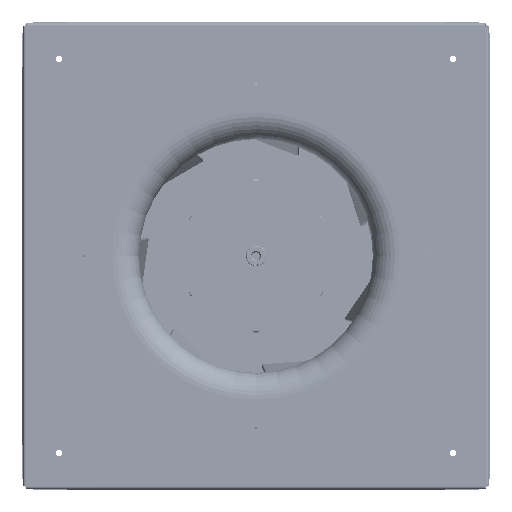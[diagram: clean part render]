
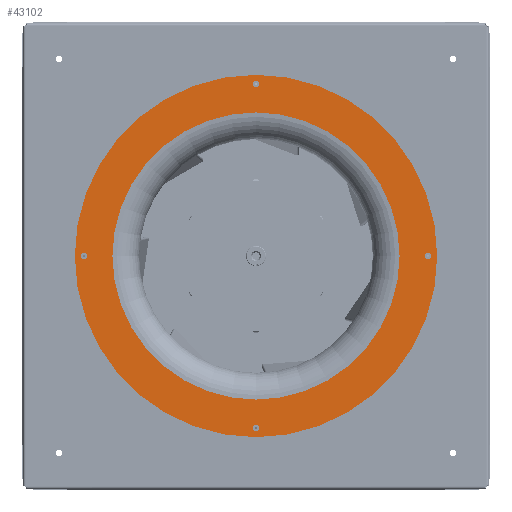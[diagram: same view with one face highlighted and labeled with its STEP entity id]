
A CAD part, front view. The second image highlights one B-rep face of the part: STEP entity #43102.
In plain terms, the highlighted planar face has unit normal (0, -1, 0) as drawn and (0, 0, 1) by its records, which use the part's own axes.
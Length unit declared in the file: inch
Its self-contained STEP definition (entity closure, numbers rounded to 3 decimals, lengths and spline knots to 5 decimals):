
#1715 = CIRCLE ( 'NONE', #76024, 0.16732 ) ;
#2706 = CARTESIAN_POINT ( 'NONE',  ( -0.16732, -9.6063, 0. ) ) ;
#5581 = CARTESIAN_POINT ( 'NONE',  ( 0., 9.6063, 0. ) ) ;
#12181 = ORIENTED_EDGE ( 'NONE', *, *, #39058, .T. ) ;
#12630 = DIRECTION ( 'NONE',  ( 1., 0., 0. ) ) ;
#13577 = ORIENTED_EDGE ( 'NONE', *, *, #205903, .F. ) ;
#16025 = EDGE_CURVE ( 'NONE', #217130, #172146, #111069, .T. ) ;
#16224 = DIRECTION ( 'NONE',  ( 0., 0., 1. ) ) ;
#17736 = VERTEX_POINT ( 'NONE', #35707 ) ;
#17962 = CARTESIAN_POINT ( 'NONE',  ( 0.16732, -9.6063, 0. ) ) ;
#21403 = EDGE_CURVE ( 'NONE', #17736, #46559, #57451, .T. ) ;
#22189 = CIRCLE ( 'NONE', #197042, 10.11811 ) ;
#22967 = AXIS2_PLACEMENT_3D ( 'NONE', #102961, #27120, #208399 ) ;
#27120 = DIRECTION ( 'NONE',  ( 0., 0., 1. ) ) ;
#28517 = VERTEX_POINT ( 'NONE', #2706 ) ;
#29367 = DIRECTION ( 'NONE',  ( 1., 0., 0. ) ) ;
#29459 = ORIENTED_EDGE ( 'NONE', *, *, #111839, .F. ) ;
#32095 = CARTESIAN_POINT ( 'NONE',  ( -10.11811, 0., 0. ) ) ;
#35707 = CARTESIAN_POINT ( 'NONE',  ( -9.6063, -0.16732, 0. ) ) ;
#36095 = CIRCLE ( 'NONE', #22967, 0.16732 ) ;
#36842 = ORIENTED_EDGE ( 'NONE', *, *, #66265, .F. ) ;
#37438 = CARTESIAN_POINT ( 'NONE',  ( 9.6063, 0., 0. ) ) ;
#39058 = EDGE_CURVE ( 'NONE', #230569, #83173, #22189, .T. ) ;
#39083 = DIRECTION ( 'NONE',  ( 0., -1., 0. ) ) ;
#43102 = ADVANCED_FACE ( 'NONE', ( #107478, #206217, #248653, #167859, #145890, #147234 ), #43109, .F. ) ;
#43109 = PLANE ( 'NONE',  #196489 ) ;
#46048 = AXIS2_PLACEMENT_3D ( 'NONE', #160157, #16224, #243678 ) ;
#46559 = VERTEX_POINT ( 'NONE', #62795 ) ;
#51811 = CARTESIAN_POINT ( 'NONE',  ( -9.6063, 0., 0. ) ) ;
#51901 = EDGE_LOOP ( 'NONE', ( #210673, #187003 ) ) ;
#54752 = EDGE_CURVE ( 'NONE', #83173, #230569, #55833, .T. ) ;
#55833 = CIRCLE ( 'NONE', #91489, 10.11811 ) ;
#56934 = AXIS2_PLACEMENT_3D ( 'NONE', #168759, #64549, #231697 ) ;
#57451 = CIRCLE ( 'NONE', #245569, 0.16732 ) ;
#57648 = ORIENTED_EDGE ( 'NONE', *, *, #256833, .F. ) ;
#62795 = CARTESIAN_POINT ( 'NONE',  ( -9.6063, 0.16732, 0. ) ) ;
#63033 = CARTESIAN_POINT ( 'NONE',  ( 0., 0., 0. ) ) ;
#64367 = DIRECTION ( 'NONE',  ( 0., 0., 1. ) ) ;
#64549 = DIRECTION ( 'NONE',  ( 0., 0., 1. ) ) ;
#66265 = EDGE_CURVE ( 'NONE', #186504, #206328, #36095, .T. ) ;
#68108 = EDGE_CURVE ( 'NONE', #28517, #117636, #152283, .T. ) ;
#70513 = DIRECTION ( 'NONE',  ( 0., 0., 1. ) ) ;
#71590 = ORIENTED_EDGE ( 'NONE', *, *, #68108, .F. ) ;
#73739 = DIRECTION ( 'NONE',  ( 0., 0., 1. ) ) ;
#74544 = CARTESIAN_POINT ( 'NONE',  ( 0., 9.6063, 0. ) ) ;
#76024 = AXIS2_PLACEMENT_3D ( 'NONE', #5581, #157231, #111054 ) ;
#83145 = CIRCLE ( 'NONE', #56934, 8.01772 ) ;
#83173 = VERTEX_POINT ( 'NONE', #194919 ) ;
#84944 = DIRECTION ( 'NONE',  ( 1., 0., 0. ) ) ;
#91489 = AXIS2_PLACEMENT_3D ( 'NONE', #159277, #200336, #12630 ) ;
#91896 = ORIENTED_EDGE ( 'NONE', *, *, #21403, .F. ) ;
#92154 = EDGE_LOOP ( 'NONE', ( #36842, #259539 ) ) ;
#98701 = CIRCLE ( 'NONE', #229913, 0.16732 ) ;
#99111 = DIRECTION ( 'NONE',  ( 0., 0., 1. ) ) ;
#102961 = CARTESIAN_POINT ( 'NONE',  ( 9.6063, 0., 0. ) ) ;
#107478 = FACE_BOUND ( 'NONE', #51901, .T. ) ;
#111054 = DIRECTION ( 'NONE',  ( 1., 0., 0. ) ) ;
#111069 = CIRCLE ( 'NONE', #180931, 8.01772 ) ;
#111839 = EDGE_CURVE ( 'NONE', #270069, #200024, #1715, .T. ) ;
#113049 = EDGE_LOOP ( 'NONE', ( #13577, #91896 ) ) ;
#115891 = EDGE_LOOP ( 'NONE', ( #239039, #12181 ) ) ;
#116140 = CARTESIAN_POINT ( 'NONE',  ( -8.01772, 0., 0. ) ) ;
#117379 = EDGE_CURVE ( 'NONE', #117636, #28517, #98701, .T. ) ;
#117636 = VERTEX_POINT ( 'NONE', #17962 ) ;
#118879 = EDGE_CURVE ( 'NONE', #206328, #186504, #199761, .T. ) ;
#123131 = CARTESIAN_POINT ( 'NONE',  ( -0.16732, 9.6063, 0. ) ) ;
#123148 = CARTESIAN_POINT ( 'NONE',  ( 0., 0., 0. ) ) ;
#124608 = CIRCLE ( 'NONE', #46048, 0.16732 ) ;
#126530 = DIRECTION ( 'NONE',  ( -1., 0., 0. ) ) ;
#130345 = AXIS2_PLACEMENT_3D ( 'NONE', #232015, #167721, #126530 ) ;
#141019 = DIRECTION ( 'NONE',  ( 1., 0., 0. ) ) ;
#145890 = FACE_BOUND ( 'NONE', #92154, .T. ) ;
#147234 = FACE_OUTER_BOUND ( 'NONE', #115891, .T. ) ;
#152283 = CIRCLE ( 'NONE', #130345, 0.16732 ) ;
#154390 = DIRECTION ( 'NONE',  ( -1., 0., 0. ) ) ;
#155364 = CARTESIAN_POINT ( 'NONE',  ( 0.16732, 9.6063, 0. ) ) ;
#157231 = DIRECTION ( 'NONE',  ( 0., 0., 1. ) ) ;
#159277 = CARTESIAN_POINT ( 'NONE',  ( 0., 0., 0. ) ) ;
#160157 = CARTESIAN_POINT ( 'NONE',  ( -9.6063, 0., 0. ) ) ;
#167721 = DIRECTION ( 'NONE',  ( 0., 0., 1. ) ) ;
#167859 = FACE_BOUND ( 'NONE', #198887, .T. ) ;
#168759 = CARTESIAN_POINT ( 'NONE',  ( 0., 0., 0. ) ) ;
#172146 = VERTEX_POINT ( 'NONE', #116140 ) ;
#172567 = DIRECTION ( 'NONE',  ( 0., 1., 0. ) ) ;
#176318 = DIRECTION ( 'NONE',  ( 0., 0., 1. ) ) ;
#179000 = CARTESIAN_POINT ( 'NONE',  ( 0., -9.6063, 0. ) ) ;
#180931 = AXIS2_PLACEMENT_3D ( 'NONE', #63033, #64367, #84944 ) ;
#182820 = EDGE_LOOP ( 'NONE', ( #57648, #29459 ) ) ;
#186504 = VERTEX_POINT ( 'NONE', #219969 ) ;
#187003 = ORIENTED_EDGE ( 'NONE', *, *, #220984, .F. ) ;
#187470 = ORIENTED_EDGE ( 'NONE', *, *, #117379, .F. ) ;
#194919 = CARTESIAN_POINT ( 'NONE',  ( 10.11811, 0., 0. ) ) ;
#196489 = AXIS2_PLACEMENT_3D ( 'NONE', #226744, #230779, #39083 ) ;
#197042 = AXIS2_PLACEMENT_3D ( 'NONE', #123148, #208061, #141019 ) ;
#198887 = EDGE_LOOP ( 'NONE', ( #71590, #187470 ) ) ;
#199761 = CIRCLE ( 'NONE', #221647, 0.16732 ) ;
#200024 = VERTEX_POINT ( 'NONE', #155364 ) ;
#200336 = DIRECTION ( 'NONE',  ( 0., 0., 1. ) ) ;
#205903 = EDGE_CURVE ( 'NONE', #46559, #17736, #124608, .T. ) ;
#205938 = DIRECTION ( 'NONE',  ( 0., -1., 0. ) ) ;
#206217 = FACE_BOUND ( 'NONE', #182820, .T. ) ;
#206328 = VERTEX_POINT ( 'NONE', #214748 ) ;
#208061 = DIRECTION ( 'NONE',  ( 0., 0., 1. ) ) ;
#208399 = DIRECTION ( 'NONE',  ( 0., -1., 0. ) ) ;
#210673 = ORIENTED_EDGE ( 'NONE', *, *, #16025, .F. ) ;
#214748 = CARTESIAN_POINT ( 'NONE',  ( 9.6063, 0.16732, 0. ) ) ;
#217130 = VERTEX_POINT ( 'NONE', #228672 ) ;
#219969 = CARTESIAN_POINT ( 'NONE',  ( 9.6063, -0.16732, 0. ) ) ;
#220984 = EDGE_CURVE ( 'NONE', #172146, #217130, #83145, .T. ) ;
#221647 = AXIS2_PLACEMENT_3D ( 'NONE', #37438, #99111, #205938 ) ;
#226744 = CARTESIAN_POINT ( 'NONE',  ( 0., 10.11811, 0. ) ) ;
#228672 = CARTESIAN_POINT ( 'NONE',  ( 8.01772, 0., 0. ) ) ;
#229913 = AXIS2_PLACEMENT_3D ( 'NONE', #179000, #176318, #154390 ) ;
#230569 = VERTEX_POINT ( 'NONE', #32095 ) ;
#230779 = DIRECTION ( 'NONE',  ( 0., 0., -1. ) ) ;
#231697 = DIRECTION ( 'NONE',  ( 1., 0., 0. ) ) ;
#232015 = CARTESIAN_POINT ( 'NONE',  ( 0., -9.6063, 0. ) ) ;
#239039 = ORIENTED_EDGE ( 'NONE', *, *, #54752, .T. ) ;
#243678 = DIRECTION ( 'NONE',  ( 0., 1., 0. ) ) ;
#245569 = AXIS2_PLACEMENT_3D ( 'NONE', #51811, #73739, #172567 ) ;
#246049 = AXIS2_PLACEMENT_3D ( 'NONE', #74544, #70513, #29367 ) ;
#248653 = FACE_BOUND ( 'NONE', #113049, .T. ) ;
#250509 = CIRCLE ( 'NONE', #246049, 0.16732 ) ;
#256833 = EDGE_CURVE ( 'NONE', #200024, #270069, #250509, .T. ) ;
#259539 = ORIENTED_EDGE ( 'NONE', *, *, #118879, .F. ) ;
#270069 = VERTEX_POINT ( 'NONE', #123131 ) ;
